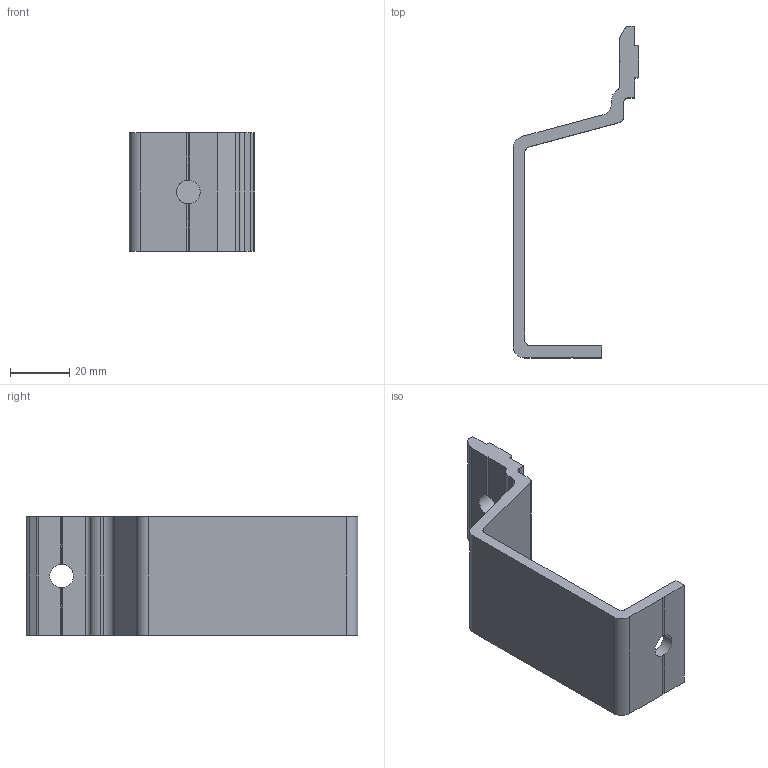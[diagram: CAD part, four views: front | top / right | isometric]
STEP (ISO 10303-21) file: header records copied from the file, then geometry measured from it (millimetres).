
FILE_DESCRIPTION((''),'2;1');
FILE_NAME('C:\Vault Klient\Projekt\Step\100-1220.stp','2009-12-10T07:58:23',('Mathias'),(''),'Autodesk Inventor 2010','Autodesk Inventor 2010','');
FILE_SCHEMA(('CONFIG_CONTROL_DESIGN'));
Length unit declared in the file: millimetre
Products named in the file (1): 100-1220
Bounding box: 42.5 x 112 x 40 mm (x, y, z)
Volume: 27217.6 mm3; surface area: 14879 mm2
Topology: 1 solids, 1 shells, 45 faces, 135 edges, 90 vertices
Faces by surface type: plane 30, cylinder 13, bspline 2
Entity records: 1561 total; most frequent: CARTESIAN_POINT 299, ORIENTED_EDGE 262, DIRECTION 259, EDGE_CURVE 131, VECTOR 91, LINE 91, VERTEX_POINT 88, AXIS2_PLACEMENT_3D 84
